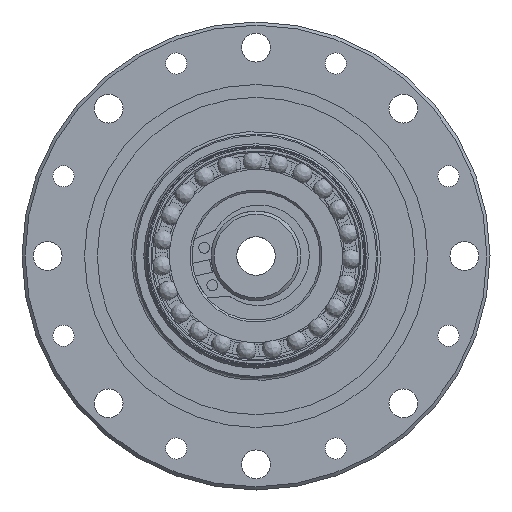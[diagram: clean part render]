
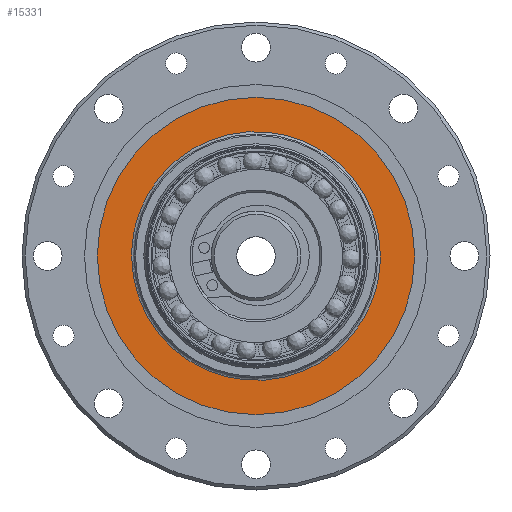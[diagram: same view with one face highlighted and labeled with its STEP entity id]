
A CAD part, left-side view. The second image highlights one B-rep face of the part: STEP entity #15331.
In plain terms, the highlighted planar face has unit normal (-1, 0, 0).
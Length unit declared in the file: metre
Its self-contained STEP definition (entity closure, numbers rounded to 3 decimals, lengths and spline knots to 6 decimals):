
#1370 = CARTESIAN_POINT ( 'NONE',  ( -0.0107, -0.0194, 0.0388 ) ) ;
#1987 = VERTEX_POINT ( 'NONE', #8292 ) ;
#2396 = EDGE_CURVE ( 'NONE', #3964, #1987, #23291, .T. ) ;
#3206 = CARTESIAN_POINT ( 'NONE',  ( -0.0107, 0.0194, 0.0388 ) ) ;
#3492 = CARTESIAN_POINT ( 'NONE',  ( -0.0107, 0., 0.0194 ) ) ;
#3964 = VERTEX_POINT ( 'NONE', #10661 ) ;
#4537 =( BOUNDED_CURVE ( )  B_SPLINE_CURVE ( 3, ( #17820, #25803, #14148, #22150 ),
 .UNSPECIFIED., .F., .F. ) 
 B_SPLINE_CURVE_WITH_KNOTS ( ( 4, 4 ),
 ( 0., 1. ),
 .UNSPECIFIED. ) 
 CURVE ( )  GEOMETRIC_REPRESENTATION_ITEM ( )  RATIONAL_B_SPLINE_CURVE ( ( 1., 0.333, 0.333, 1. ) ) 
 REPRESENTATION_ITEM ( '' )  );
#6231 = ORIENTED_EDGE ( 'NONE', *, *, #20132, .F. ) ;
#8292 = CARTESIAN_POINT ( 'NONE',  ( -0.0107, 0.0194, 0. ) ) ;
#9102 = FACE_OUTER_BOUND ( 'NONE', #24964, .T. ) ;
#10661 = CARTESIAN_POINT ( 'NONE',  ( -0.0107, -0.0194, 0. ) ) ;
#10832 = VERTEX_POINT ( 'NONE', #18796 ) ;
#11147 = CARTESIAN_POINT ( 'NONE',  ( -0.0107, 0.0194, 0. ) ) ;
#11668 = AXIS2_PLACEMENT_3D ( 'NONE', #25263, #17146, #15308 ) ;
#12724 = ORIENTED_EDGE ( 'NONE', *, *, #2396, .F. ) ;
#13266 = PLANE ( 'NONE',  #13987 ) ;
#13987 = AXIS2_PLACEMENT_3D ( 'NONE', #3492, #19021, #25430 ) ;
#14148 = CARTESIAN_POINT ( 'NONE',  ( -0.0107, -0.0194, -0.0388 ) ) ;
#15308 = DIRECTION ( 'NONE',  ( 0., 0., -1. ) ) ;
#15331 = ADVANCED_FACE ( 'NONE', ( #25309, #9102 ), #13266, .F. ) ;
#16385 = EDGE_LOOP ( 'NONE', ( #6231, #12724 ) ) ;
#16639 = ORIENTED_EDGE ( 'NONE', *, *, #25115, .F. ) ;
#17146 = DIRECTION ( 'NONE',  ( 1., 0., 0. ) ) ;
#17820 = CARTESIAN_POINT ( 'NONE',  ( -0.0107, 0.0194, 0. ) ) ;
#18796 = CARTESIAN_POINT ( 'NONE',  ( -0.0107, 0., -0.02475 ) ) ;
#19021 = DIRECTION ( 'NONE',  ( 1., 0., 0. ) ) ;
#20132 = EDGE_CURVE ( 'NONE', #1987, #3964, #4537, .T. ) ;
#21309 = CIRCLE ( 'NONE', #11668, 0.02475 ) ;
#22150 = CARTESIAN_POINT ( 'NONE',  ( -0.0107, -0.0194, 0. ) ) ;
#23057 = CARTESIAN_POINT ( 'NONE',  ( -0.0107, -0.0194, 0. ) ) ;
#23291 =( BOUNDED_CURVE ( )  B_SPLINE_CURVE ( 3, ( #23057, #1370, #3206, #11147 ),
 .UNSPECIFIED., .F., .F. ) 
 B_SPLINE_CURVE_WITH_KNOTS ( ( 4, 4 ),
 ( 0., 1. ),
 .UNSPECIFIED. ) 
 CURVE ( )  GEOMETRIC_REPRESENTATION_ITEM ( )  RATIONAL_B_SPLINE_CURVE ( ( 1., 0.333, 0.333, 1. ) ) 
 REPRESENTATION_ITEM ( '' )  );
#24964 = EDGE_LOOP ( 'NONE', ( #16639 ) ) ;
#25115 = EDGE_CURVE ( 'NONE', #10832, #10832, #21309, .T. ) ;
#25263 = CARTESIAN_POINT ( 'NONE',  ( -0.0107, 0., 0. ) ) ;
#25309 = FACE_BOUND ( 'NONE', #16385, .T. ) ;
#25430 = DIRECTION ( 'NONE',  ( 0., 0., -1. ) ) ;
#25803 = CARTESIAN_POINT ( 'NONE',  ( -0.0107, 0.0194, -0.0388 ) ) ;
